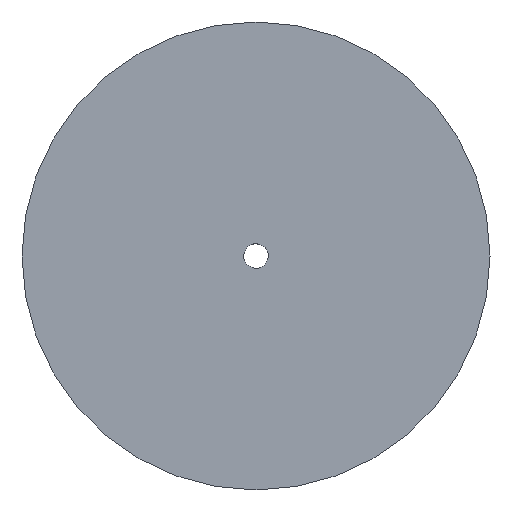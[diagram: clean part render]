
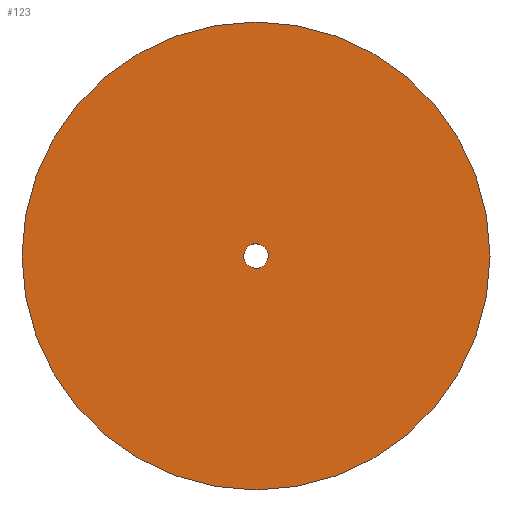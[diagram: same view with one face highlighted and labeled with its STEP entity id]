
A CAD part, top view. The second image highlights one B-rep face of the part: STEP entity #123.
In plain terms, the highlighted planar face has unit normal (0, 0, 1).
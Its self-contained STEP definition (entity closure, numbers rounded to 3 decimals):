
#62=CARTESIAN_POINT('Vertex',(-2.852,1.558,0.)) ;
#76=CARTESIAN_POINT('Vertex',(2.852,-1.558,0.)) ;
#79=CARTESIAN_POINT('Axis2P3D Location',(0.,0.,0.)) ;
#91=CARTESIAN_POINT('Axis2P3D Location',(0.,0.,0.)) ;
#96=CARTESIAN_POINT('Axis2P3D Location',(0.,0.,0.)) ;
#100=CARTESIAN_POINT('Vertex',(62.,0.,0.)) ;
#102=CARTESIAN_POINT('Vertex',(-62.,0.,0.)) ;
#105=CARTESIAN_POINT('Axis2P3D Location',(0.,0.,0.)) ;
#114=CARTESIAN_POINT('Axis2P3D Location',(0.,0.,0.)) ;
#80=DIRECTION('Axis2P3D Direction',(0.,-0.,-1.)) ;
#92=DIRECTION('Axis2P3D Direction',(0.,0.,1.)) ;
#93=DIRECTION('Axis2P3D XDirection',(1.,0.,0.)) ;
#97=DIRECTION('Axis2P3D Direction',(0.,0.,1.)) ;
#106=DIRECTION('Axis2P3D Direction',(0.,0.,1.)) ;
#115=DIRECTION('Axis2P3D Direction',(0.,0.,1.)) ;
#81=AXIS2_PLACEMENT_3D('Circle Axis2P3D',#79,#80,$) ;
#94=AXIS2_PLACEMENT_3D('Plane Axis2P3D',#91,#92,#93) ;
#98=AXIS2_PLACEMENT_3D('Circle Axis2P3D',#96,#97,$) ;
#107=AXIS2_PLACEMENT_3D('Circle Axis2P3D',#105,#106,$) ;
#116=AXIS2_PLACEMENT_3D('Circle Axis2P3D',#114,#115,$) ;
#111=ORIENTED_EDGE('',*,*,#104,.F.) ;
#112=ORIENTED_EDGE('',*,*,#109,.F.) ;
#120=ORIENTED_EDGE('',*,*,#118,.F.) ;
#121=ORIENTED_EDGE('',*,*,#83,.F.) ;
#122=FACE_BOUND('',#119,.T.) ;
#123=ADVANCED_FACE('PartBody',(#113,#122),#95,.T.) ;
#82=CIRCLE('generated circle',#81,3.25) ;
#99=CIRCLE('generated circle',#98,62.) ;
#108=CIRCLE('generated circle',#107,62.) ;
#117=CIRCLE('generated circle',#116,3.25) ;
#83=EDGE_CURVE('',#77,#63,#82,.F.) ;
#104=EDGE_CURVE('',#101,#103,#99,.F.) ;
#109=EDGE_CURVE('',#103,#101,#108,.F.) ;
#118=EDGE_CURVE('',#63,#77,#117,.T.) ;
#110=EDGE_LOOP('',(#111,#112)) ;
#119=EDGE_LOOP('',(#120,#121)) ;
#113=FACE_OUTER_BOUND('',#110,.T.) ;
#95=PLANE('',#94) ;
#63=VERTEX_POINT('',#62) ;
#77=VERTEX_POINT('',#76) ;
#101=VERTEX_POINT('',#100) ;
#103=VERTEX_POINT('',#102) ;
